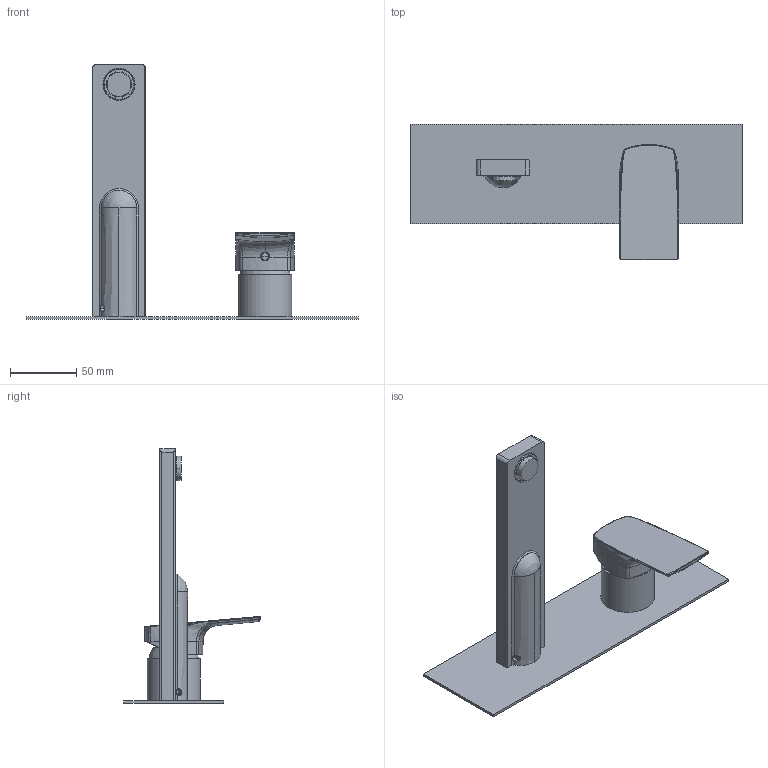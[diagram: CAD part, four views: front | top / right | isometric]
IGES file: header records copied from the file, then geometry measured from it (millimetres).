
Start section:  PTC IGES file: 3d_sw0004.igs
Global section: file name: 3d_sw0004.igs; native system: Creo Parametric by PTC Inc.; preprocessor: 2022014; author: volponeff; organization: Unknown; date: 20241007.145620; units: millimetre
Bounding box: 250 x 102.5 x 192 mm (x, y, z)
Surface area: 111424.2 mm2 (no closed solid volume)
Topology: 0 solids, 0 shells, 933 faces, 5261 edges, 5252 vertices
Faces by surface type: revolution 527, bspline 406
